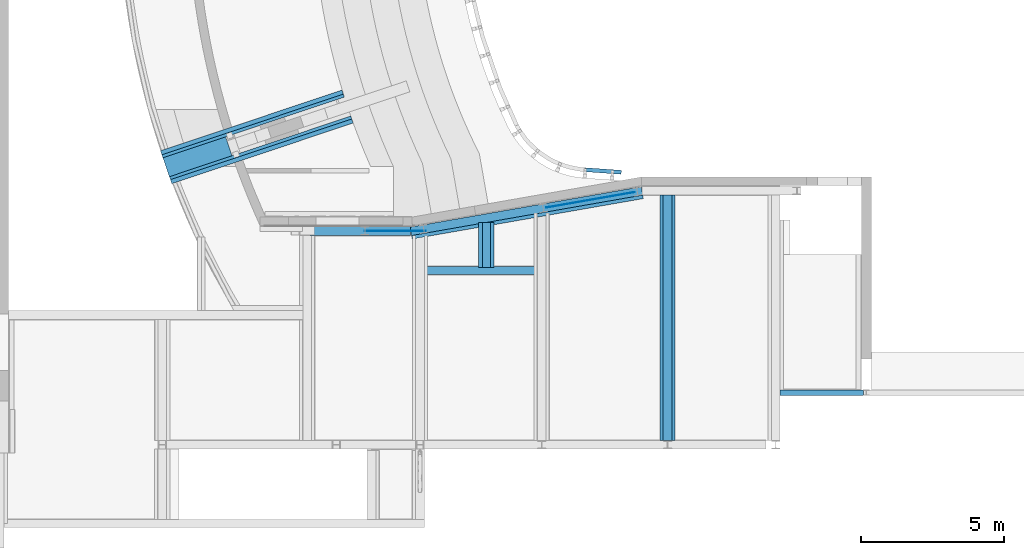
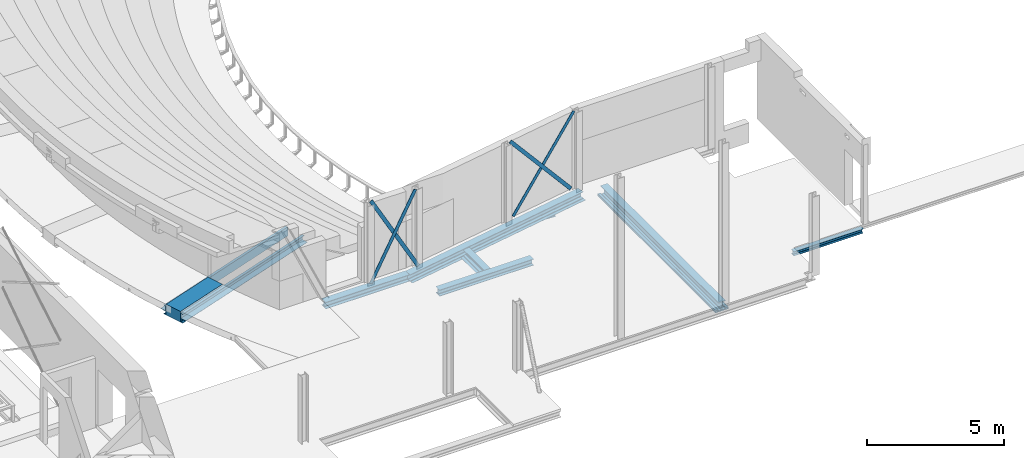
# One storey, part 24 of 68: 16 beams.
"""IFC2X3 building model written with IfcOpenShell, lengths in millimetres."""

from ifc_helpers import new_model, entity, si_unit, converted_unit, derived_unit, direction, frame, frame_2d, origin, origin_2d_with_axis, place, context, subcontext, project, spatial, polyline, circle_curve, parameter, trimmed, segment, composite_curve, rectangle, i_section, outline, extrude, source, transform, mapped, material, material_list, type_object, type_shapes, element, save


model = new_model("IFC2X3")

# Units and contexts
model_context = context("Model", 3, precision=0.01, world=origin(), true_north=direction((6.12303176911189e-17, 1.0)))
body_context = subcontext(model_context, "Body", "Model", "MODEL_VIEW")
ifc_project = project(units=[si_unit("LENGTHUNIT", "METRE", prefix="MILLI"), si_unit("AREAUNIT", "SQUARE_METRE", prefix="MILLI"), si_unit("VOLUMEUNIT", "CUBIC_METRE"), converted_unit("PLANEANGLEUNIT", "DEGREE", entity("IfcRatioMeasure", 0.0174532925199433), si_unit("PLANEANGLEUNIT", "RADIAN"), dimensions=[0, 0, 0, 0, 0, 0, 0]), si_unit("MASSUNIT", "GRAM", prefix="KILO"), derived_unit("MASSDENSITYUNIT", [(si_unit("MASSUNIT", "GRAM", prefix="KILO"), 1), (si_unit("LENGTHUNIT", "METRE"), -3)]), derived_unit("MOMENTOFINERTIAUNIT", [(si_unit("LENGTHUNIT", "METRE"), 4)]), si_unit("TIMEUNIT", "SECOND"), si_unit("FREQUENCYUNIT", "HERTZ"), si_unit("THERMODYNAMICTEMPERATUREUNIT", "DEGREE_CELSIUS"), derived_unit("THERMALTRANSMITTANCEUNIT", [(si_unit("MASSUNIT", "GRAM", prefix="KILO"), 1), (si_unit("THERMODYNAMICTEMPERATUREUNIT", "KELVIN"), -1), (si_unit("TIMEUNIT", "SECOND"), -3)]), derived_unit("VOLUMETRICFLOWRATEUNIT", [(si_unit("LENGTHUNIT", "METRE"), 3), (si_unit("TIMEUNIT", "SECOND"), -1)]), si_unit("ELECTRICCURRENTUNIT", "AMPERE"), si_unit("ELECTRICVOLTAGEUNIT", "VOLT"), si_unit("POWERUNIT", "WATT"), si_unit("FORCEUNIT", "NEWTON", prefix="KILO"), si_unit("ILLUMINANCEUNIT", "LUX"), si_unit("LUMINOUSFLUXUNIT", "LUMEN"), si_unit("LUMINOUSINTENSITYUNIT", "CANDELA"), derived_unit("USERDEFINED", [(si_unit("MASSUNIT", "GRAM", prefix="KILO"), -1), (si_unit("LENGTHUNIT", "METRE"), -2), (si_unit("TIMEUNIT", "SECOND"), 3), (si_unit("LUMINOUSFLUXUNIT", "LUMEN"), 1)]), derived_unit("LINEARVELOCITYUNIT", [(si_unit("LENGTHUNIT", "METRE"), 1), (si_unit("TIMEUNIT", "SECOND"), -1)]), si_unit("PRESSUREUNIT", "PASCAL"), derived_unit("USERDEFINED", [(si_unit("LENGTHUNIT", "METRE"), -2), (si_unit("MASSUNIT", "GRAM", prefix="KILO"), 1), (si_unit("TIMEUNIT", "SECOND"), -2)]), derived_unit("LINEARFORCEUNIT", [(si_unit("MASSUNIT", "GRAM", prefix="KILO"), 1), (si_unit("LENGTHUNIT", "METRE"), 1), (si_unit("TIMEUNIT", "SECOND"), -2), (si_unit("LENGTHUNIT", "METRE"), -1)]), derived_unit("PLANARFORCEUNIT", [(si_unit("MASSUNIT", "GRAM", prefix="KILO"), 1), (si_unit("LENGTHUNIT", "METRE"), 1), (si_unit("TIMEUNIT", "SECOND"), -2), (si_unit("LENGTHUNIT", "METRE"), -2)])], contexts=[model_context])

# Site, building, storey
site_placement = place(None, origin())
site = spatial("IfcSite", under=ifc_project, at=site_placement, Name="Theater aan de Parade", CompositionType="ELEMENT")
building_placement = place(site_placement, origin())
building = spatial("IfcBuilding", under=site, at=building_placement, Name="Theater aan de Parade", CompositionType="ELEMENT")
storey_placement = place(building_placement, frame((0.0, 0.0, 8750.0)))
storey = spatial("IfcBuildingStorey", under=building, at=storey_placement, Name="02 tweede verdieping", CompositionType="ELEMENT", Elevation=8750.0)

# Beams
ifc_material_1 = material(Name="00_PBT_MAT_staal_S355")
beam_type_1 = type_object("IfcBeamType", Name="28_PBT_SF_staal_H-profiel (void):S355_HE300B", PredefinedType="NOTDEFINED")
beam_1_placement = place(storey_placement, frame((48015.9457262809, 20445.0, 0.0)))
element("IfcBeam", 1, at=beam_1_placement, inside=storey, type_object=beam_type_1, material=ifc_material_1, Name="28_PBT_SF_staal_H-profiel (void):S355_HE300B", ObjectType="28_PBT_SF_staal_H-profiel (void):S355_HE300B", context=body_context, shape_type="SweptSolid", body=[
    extrude(outline(composite_curve([segment(polyline([(131.0, -150.0), (150.0, -150.0)]), True, "CONTINUOUS"), segment(polyline([(150.0, -150.0), (150.0, 150.0)]), True, "CONTINUOUS"), segment(polyline([(150.0, 150.0), (131.0, 150.0)]), True, "CONTINUOUS"), segment(polyline([(131.0, 150.0), (131.0, 32.5000000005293)]), True, "CONTINUOUS"), segment(trimmed(circle_curve(frame_2d((104.0, 32.5000000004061), x_axis=(1.0, 0.0)), 26.9999999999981), [parameter(269.999999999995)], [parameter(0.0)], True, "PARAMETER"), False, "CONTINUOUS"), segment(polyline([(104.0, 5.50000000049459), (-104.0, 5.4999999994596)]), True, "CONTINUOUS"), segment(trimmed(circle_curve(frame_2d((-104.0, 32.4999999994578), x_axis=(0.0, -1.0)), 26.9999999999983), [parameter(269.999999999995)], [parameter(0.0)], True, "PARAMETER"), False, "CONTINUOUS"), segment(polyline([(-131.0, 32.4999999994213), (-131.0, 150.0)]), True, "CONTINUOUS"), segment(polyline([(-131.0, 150.0), (-150.0, 150.0)]), True, "CONTINUOUS"), segment(polyline([(-150.0, 150.0), (-150.0, -150.0)]), True, "CONTINUOUS"), segment(polyline([(-150.0, -150.0), (-131.0, -150.0)]), True, "CONTINUOUS"), segment(polyline([(-131.0, -150.0), (-131.0, -32.5000000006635)]), True, "CONTINUOUS"), segment(trimmed(circle_curve(frame_2d((-104.0, -32.5000000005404), x_axis=(-1.0, 0.0)), 26.9999999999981), [parameter(269.999999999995)], [parameter(0.0)], True, "PARAMETER"), False, "CONTINUOUS"), segment(polyline([(-104.0, -5.50000000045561), (104.0, -5.49999999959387)]), True, "CONTINUOUS"), segment(trimmed(circle_curve(frame_2d((104.0, -32.4999999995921), x_axis=(0.0, 1.0)), 26.9999999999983), [parameter(269.999999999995)], [parameter(0.0)], True, "PARAMETER"), False, "CONTINUOUS"), segment(polyline([(131.0, -32.4999999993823), (131.0, -150.0)]), True, "CONTINUOUS")], self_intersect=False)), frame((12.7000006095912, 0.0, -310.0), z_axis=(1.0, 0.0, 0.0), x_axis=(0.0, 0.0, -1.0)), (0.0, 0.0, 1.0), 3515.82327780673),
])
ifc_material_2 = material(Name="00_PBT_MAT_Lucht")
ifc_material_list_1 = material_list([ifc_material_1, ifc_material_2])
beam_type_2 = type_object("IfcBeamType", Name="28_PBT_SF_staal_H-profiel_met_ondergelaste_strip (void):S355_HE300B + ondergelaste strip d=12", PredefinedType="BEAM", material=ifc_material_list_1)
shared_shape_1 = source(origin(), body_context, "Body", "SweptSolid", [
    extrude(rectangle(XDim=12.0, YDim=420.0, at=frame_2d((8.43769498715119e-15, 0.0), x_axis=(1.0, 0.0))), frame((-4112.59046725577, -65.0, -156.0), z_axis=(1.0, 0.0, 0.0), x_axis=(0.0, 0.0, -1.0)), (0.0, 0.0, 1.0), 8225.18093451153),
    extrude(i_section(OverallWidth=300.0, OverallDepth=300.0, WebThickness=11.0, FlangeThickness=18.9999999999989, FilletRadius=27.0, at=frame_2d((-3.97903932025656e-13, -1.4210854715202e-14), x_axis=(0.0, 1.0))), frame((-4113.59046725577, 0.0, 0.0), z_axis=(1.0, 0.0, 0.0), x_axis=(0.0, 0.0, -1.0)), (0.0, 0.0, 1.0), 8227.18093451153),
])
type_shapes(beam_type_2, [shared_shape_1])
beam_2_placement = place(storey_placement, frame((55604.3861490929, 21141.1470188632, -315.0), z_axis=(0.0, 0.0, 1.0), x_axis=(0.985030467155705, 0.172380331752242, 0.0)))
element("IfcBeam", 2, at=beam_2_placement, inside=storey, type_object=beam_type_2, material=ifc_material_1, Name="28_PBT_SF_staal_H-profiel_met_ondergelaste_strip (void):S355_HE300B + ondergelaste strip d=12", ObjectType="28_PBT_SF_staal_H-profiel_met_ondergelaste_strip (void):S355_HE300B + ondergelaste strip d=12", context=body_context, shape_type="MappedRepresentation", body=[
    mapped(shared_shape_1, transform((0.0, 0.0, 0.0), scale=1.0)),
])
beam_type_3 = type_object("IfcBeamType", Name="28_PBT_SF_staal_H-profiel (void):S355_HE280B", PredefinedType="NOTDEFINED")
beam_3_placement = place(storey_placement, frame((52025.3051596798, 19060.0, 0.0)))
element("IfcBeam", 3, at=beam_3_placement, inside=storey, type_object=beam_type_3, material=ifc_material_1, Name="28_PBT_SF_staal_H-profiel (void):S355_HE280B", ObjectType="28_PBT_SF_staal_H-profiel (void):S355_HE280B", context=body_context, shape_type="SweptSolid", body=[
    extrude(i_section(OverallWidth=279.999999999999, OverallDepth=280.0, WebThickness=10.4999999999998, FlangeThickness=17.9999999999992, FilletRadius=24.0000000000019, at=frame_2d((-5.40012479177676e-13, -2.1600499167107e-12), x_axis=(0.0, 1.0))), frame((0.0, 0.0, -320.0), z_axis=(1.0, 0.0, 0.0), x_axis=(0.0, 0.0, -1.0)), (0.0, 0.0, 1.0), 3964.24691582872),
])
beam_type_4 = type_object("IfcBeamType", Name="28_PBT_SF_staal_UNP-profiel_met_ingelaste_strip (void):S355_UNP400 + ingelaste strip_d=15", PredefinedType="BEAM", material=ifc_material_1)
shared_shape_2 = source(origin(), body_context, "Body", "SweptSolid", [
    extrude(rectangle(XDim=15.0, YDim=246.000000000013, at=origin_2d_with_axis()), frame((-3347.81277457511, -110.2, -32.499999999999), z_axis=(1.0, 0.0, 0.0), x_axis=(0.0, 0.0, -1.0)), (0.0, 0.0, 1.0), 6695.62554915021),
    extrude(outline(composite_curve([segment(polyline([(191.0, -48.8333333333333), (200.0, -48.8333333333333)]), True, "CONTINUOUS"), segment(polyline([(200.0, -48.8333333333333), (200.0, 61.1666666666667)]), True, "CONTINUOUS"), segment(polyline([(200.0, 61.1666666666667), (-200.0, 61.1666666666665)]), True, "CONTINUOUS"), segment(polyline([(-200.0, 61.1666666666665), (-200.0, -48.8333333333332)]), True, "CONTINUOUS"), segment(polyline([(-200.0, -48.8333333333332), (-191.0, -48.8333333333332)]), True, "CONTINUOUS"), segment(trimmed(circle_curve(frame_2d((-191.0, -39.8333333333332), x_axis=(0.0, -1.0)), 8.99999999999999), [parameter(0.0)], [parameter(90.0000000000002)], True, "PARAMETER"), True, "CONTINUOUS"), segment(polyline([(-182.0, -39.8333333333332), (-182.0, 29.1666666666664)]), True, "CONTINUOUS"), segment(trimmed(circle_curve(frame_2d((-164.0, 29.1666666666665), x_axis=(-1.0, 0.0)), 18.0), [parameter(270.0)], [parameter(0.0)], True, "PARAMETER"), False, "CONTINUOUS"), segment(polyline([(-164.0, 47.1666666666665), (164.0, 47.1666666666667)]), True, "CONTINUOUS"), segment(trimmed(circle_curve(frame_2d((164.0, 29.1666666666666), x_axis=(0.0, 1.0)), 18.0000000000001), [parameter(270.0)], [parameter(0.0)], True, "PARAMETER"), False, "CONTINUOUS"), segment(polyline([(182.0, 29.1666666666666), (182.0, -39.8333333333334)]), True, "CONTINUOUS"), segment(trimmed(circle_curve(frame_2d((191.0, -39.8333333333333), x_axis=(-1.0, 0.0)), 8.99999999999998), [parameter(0.0)], [parameter(90.0000000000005)], True, "PARAMETER"), True, "CONTINUOUS")], self_intersect=False)), frame((-3347.81277457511, -34.3666666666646, 0.0), z_axis=(1.0, 0.0, 0.0), x_axis=(0.0, 0.0, -1.0)), (0.0, 0.0, 1.0), 6695.62554915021),
])
type_shapes(beam_type_4, [shared_shape_2])
beam_4_placement = place(storey_placement, frame((46280.8476382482, 23385.1136450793, -355.0), z_axis=(0.0, 0.0, 1.0), x_axis=(0.948323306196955, 0.317305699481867, 0.0)))
element("IfcBeam", 4, at=beam_4_placement, inside=storey, type_object=beam_type_4, material=ifc_material_1, Name="28_PBT_SF_staal_UNP-profiel_met_ingelaste_strip (void):S355_UNP400 + ingelaste strip_d=15", ObjectType="28_PBT_SF_staal_UNP-profiel_met_ingelaste_strip (void):S355_UNP400 + ingelaste strip_d=15", context=body_context, shape_type="MappedRepresentation", body=[
    mapped(shared_shape_2, transform((0.0, 0.0, 0.0), scale=1.0)),
])
beam_type_5 = type_object("IfcBeamType", Name="28_PBT_SF_staal_UNP-profiel_met_ingelaste_strip (void):S355_UNP400 + ingelaste strip_d=15", PredefinedType="BEAM", material=ifc_material_1)
shared_shape_3 = source(origin(), body_context, "Body", "SweptSolid", [
    extrude(outline(composite_curve([segment(polyline([(-200.0, -48.833333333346), (-191.0, -48.833333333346)]), True, "CONTINUOUS"), segment(trimmed(circle_curve(frame_2d((-191.0, -39.8333333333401), x_axis=(0.0, -1.0)), 9.00000000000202), [parameter(0.0)], [parameter(89.9999999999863)], True, "PARAMETER"), True, "CONTINUOUS"), segment(polyline([(-182.0, -39.8333333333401), (-182.0, 29.1666666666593)]), True, "CONTINUOUS"), segment(trimmed(circle_curve(frame_2d((-164.0, 29.1666666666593), x_axis=(-1.0, 0.0)), 17.9999999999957), [parameter(269.999999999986)], [parameter(0.0)], True, "PARAMETER"), False, "CONTINUOUS"), segment(polyline([(-164.0, 47.1666666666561), (164.0, 47.1666666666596)]), True, "CONTINUOUS"), segment(trimmed(circle_curve(frame_2d((164.0, 29.1666666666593), x_axis=(0.0, 1.0)), 17.9999999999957), [parameter(269.999999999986)], [parameter(0.0)], True, "PARAMETER"), False, "CONTINUOUS"), segment(polyline([(182.0, 29.1666666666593), (182.0, -39.8333333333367)]), True, "CONTINUOUS"), segment(trimmed(circle_curve(frame_2d((191.0, -39.8333333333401), x_axis=(-1.0, 0.0)), 9.00000000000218), [parameter(0.0)], [parameter(89.9999999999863)], True, "PARAMETER"), True, "CONTINUOUS"), segment(polyline([(191.0, -48.8333333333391), (200.0, -48.8333333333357)]), True, "CONTINUOUS"), segment(polyline([(200.0, -48.8333333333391), (200.0, 61.1666666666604)]), True, "CONTINUOUS"), segment(polyline([(200.0, 61.1666666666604), (-200.0, 61.1666666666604)]), True, "CONTINUOUS"), segment(polyline([(-200.0, 61.1666666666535), (-200.0, -48.8333333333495)]), True, "CONTINUOUS")], self_intersect=False)), frame((42846.8258397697, 23067.0069190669, 8395.0), z_axis=(0.948323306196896, 0.317305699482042, 0.0), x_axis=(0.0, 0.0, 1.0)), (0.0, 0.0, 1.0), 6705.31275726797),
    extrude(rectangle(XDim=14.9999999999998, YDim=246.000000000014, at=frame_2d((0.0, 2.06057393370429e-12), x_axis=(1.0, 0.0))), frame((42822.7634908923, 23138.9214364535, 8362.5), z_axis=(0.948323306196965, 0.317305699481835, 0.0), x_axis=(0.0, 0.0, 1.0)), (0.0, 0.0, 1.0), 6705.31275726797),
])
type_shapes(beam_type_5, [shared_shape_3])
beam_5_placement = place(storey_placement, frame((0.0, 0.0, -8750.0)))
element("IfcBeam", 5, at=beam_5_placement, inside=storey, type_object=beam_type_5, material=ifc_material_1, Name="28_PBT_SF_staal_UNP-profiel_met_ingelaste_strip (void):S355_UNP400 + ingelaste strip_d=15", ObjectType="28_PBT_SF_staal_UNP-profiel_met_ingelaste_strip (void):S355_UNP400 + ingelaste strip_d=15", context=body_context, shape_type="MappedRepresentation", body=[
    mapped(shared_shape_3, transform((0.0, 0.0, 0.0), scale=1.0)),
])
beam_type_6 = type_object("IfcBeamType", Name="28_PBT_SF_staal_UNP-profiel:S355_UNP140", PredefinedType="NOTDEFINED")
beam_6_placement = place(storey_placement, frame((58929.5914803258, 22501.1086016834, 0.0), z_axis=(0.0, 0.0, 1.0), x_axis=(-0.997491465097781, 0.0707868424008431, 0.0)))
element("IfcBeam", 6, at=beam_6_placement, inside=storey, type_object=beam_type_6, material=ifc_material_1, Name="28_PBT_SF_staal_UNP-profiel:S355_UNP140", ObjectType="28_PBT_SF_staal_UNP-profiel:S355_UNP140", context=body_context, shape_type="SweptSolid", body=[
    extrude(outline(composite_curve([segment(polyline([(-33.1002123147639, -70.0), (26.8997876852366, -70.0)]), True, "CONTINUOUS"), segment(polyline([(26.8997876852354, -70.0), (26.8997876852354, -67.0159744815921)]), True, "CONTINUOUS"), segment(trimmed(circle_curve(frame_2d((21.8997876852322, -67.0159744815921), x_axis=(1.0, 0.0)), 5.00000000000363), [parameter(0.0)], [parameter(85.4260787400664)], True, "PARAMETER"), True, "CONTINUOUS"), segment(polyline([(22.2985137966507, -62.0318980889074), (-16.8976645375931, -58.8962038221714)]), True, "CONTINUOUS"), segment(trimmed(circle_curve(frame_2d((-16.1002123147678, -48.9280510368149), x_axis=(-0.0797452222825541, -0.996815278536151)), 9.99999999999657), [parameter(274.573921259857)], [parameter(0.0)], True, "PARAMETER"), False, "CONTINUOUS"), segment(polyline([(-26.1002123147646, -48.9280510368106), (-26.1002123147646, 48.9280510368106)]), True, "CONTINUOUS"), segment(trimmed(circle_curve(frame_2d((-16.1002123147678, 48.9280510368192), x_axis=(-1.0, 0.0)), 9.99999999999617), [parameter(274.573921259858)], [parameter(0.0)], True, "PARAMETER"), False, "CONTINUOUS"), segment(polyline([(-16.8976645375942, 58.8962038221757), (22.2985137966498, 62.0318980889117)]), True, "CONTINUOUS"), segment(trimmed(circle_curve(frame_2d((21.8997876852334, 67.0159744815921), x_axis=(0.0797452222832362, -0.996815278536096)), 5.00000000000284), [parameter(0.0)], [parameter(85.4260787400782)], True, "PARAMETER"), True, "CONTINUOUS"), segment(polyline([(26.8997876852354, 67.0159744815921), (26.8997876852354, 70.0)]), True, "CONTINUOUS"), segment(polyline([(26.8997876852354, 70.0), (-33.100212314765, 70.0)]), True, "CONTINUOUS"), segment(polyline([(-33.100212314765, 70.0), (-33.1002123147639, -70.0)]), True, "CONTINUOUS")], self_intersect=False)), frame((0.0, 0.0, -1431.10021231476), z_axis=(1.0, 0.0, 0.0), x_axis=(0.0, 0.0, -1.0)), (0.0, 0.0, 1.0), 1278.97616035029),
])
beam_type_7 = type_object("IfcBeamType", Name="28_PBT_SF_staal_H-profiel (void):S355_HE200A", PredefinedType="NOTDEFINED")
beam_7_placement = place(storey_placement, frame((67416.0563479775, 14780.0, 0.0), z_axis=(0.0, 0.0, 1.0), x_axis=(-1.0, 0.0, 0.0)))
element("IfcBeam", 7, at=beam_7_placement, inside=storey, type_object=beam_type_7, material=ifc_material_1, Name="28_PBT_SF_staal_H-profiel (void):S355_HE200A", ObjectType="28_PBT_SF_staal_H-profiel (void):S355_HE200A", context=body_context, shape_type="SweptSolid", body=[
    extrude(outline(composite_curve([segment(polyline([(85.0, -100.0), (95.0, -100.0)]), True, "CONTINUOUS"), segment(polyline([(95.0, -100.0), (95.0, 100.0)]), True, "CONTINUOUS"), segment(polyline([(95.0, 100.0), (85.0, 100.0)]), True, "CONTINUOUS"), segment(polyline([(85.0, 100.0), (85.0, 21.2500000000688)]), True, "CONTINUOUS"), segment(trimmed(circle_curve(frame_2d((67.0, 21.2500000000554), x_axis=(1.0, 0.0)), 18.0000000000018), [parameter(270.00000000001)], [parameter(0.0)], True, "PARAMETER"), False, "CONTINUOUS"), segment(polyline([(67.0, 3.25000000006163), (-67.0, 3.24999999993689)]), True, "CONTINUOUS"), segment(trimmed(circle_curve(frame_2d((-67.0, 21.2499999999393), x_axis=(0.0, -1.0)), 18.0000000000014), [parameter(270.00000000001)], [parameter(0.0)], True, "PARAMETER"), False, "CONTINUOUS"), segment(polyline([(-85.0, 21.2499999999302), (-85.0, 100.0)]), True, "CONTINUOUS"), segment(polyline([(-85.0, 100.0), (-95.0, 100.0)]), True, "CONTINUOUS"), segment(polyline([(-95.0, 100.0), (-95.0, -100.0)]), True, "CONTINUOUS"), segment(polyline([(-95.0, -100.0), (-85.0, -100.0)]), True, "CONTINUOUS"), segment(polyline([(-85.0, -100.0), (-85.0, -21.2500000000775)]), True, "CONTINUOUS"), segment(trimmed(circle_curve(frame_2d((-67.0, -21.250000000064), x_axis=(-1.0, 0.0)), 18.0000000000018), [parameter(270.00000000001)], [parameter(0.0)], True, "PARAMETER"), False, "CONTINUOUS"), segment(polyline([(-67.0, -3.25000000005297), (67.0, -3.24999999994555)]), True, "CONTINUOUS"), segment(trimmed(circle_curve(frame_2d((67.0, -21.249999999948), x_axis=(0.0, 1.0)), 18.0000000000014), [parameter(270.00000000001)], [parameter(0.0)], True, "PARAMETER"), False, "CONTINUOUS"), segment(polyline([(85.0, -21.2499999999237), (85.0, -100.0)]), True, "CONTINUOUS")], self_intersect=False)), frame((0.0, 0.0, -365.0), z_axis=(1.0, 0.0, 0.0), x_axis=(0.0, 0.0, -1.0)), (0.0, 0.0, 1.0), 2921.50427246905),
])
ifc_material_3 = material(Name="00_PBT_MAT_staal_S235")
beam_type_8 = type_object("IfcBeamType", Name="28_PBT_SF_staal_koker:S235_K80x120x6.3", PredefinedType="NOTDEFINED")
beam_8_placement = place(storey_placement, frame((60280.5520755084, 21705.0, 0.0), z_axis=(0.0, 0.0, 1.0), x_axis=(0.0, -1.0, 0.0)))
element("IfcBeam", 8, at=beam_8_placement, inside=storey, type_object=beam_type_8, material=ifc_material_3, Name="28_PBT_SF_staal_koker:S235_K80x120x6.3", ObjectType="28_PBT_SF_staal_koker:S235_K80x120x6.3", context=body_context, shape_type="SweptSolid", body=[
    extrude(outline(composite_curve([segment(polyline([(-30.5499999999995, -60.0), (30.5500000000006, -60.0)]), True, "CONTINUOUS"), segment(trimmed(circle_curve(frame_2d((30.5500000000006, -50.5500000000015), x_axis=(0.0, 1.0)), 9.45), [parameter(180.0)], [parameter(270.0)], True, "PARAMETER"), True, "CONTINUOUS"), segment(polyline([(40.0, -50.5500000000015), (40.0, 50.5500000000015)]), True, "CONTINUOUS"), segment(trimmed(circle_curve(frame_2d((30.5500000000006, 50.5500000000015), x_axis=(0.0, 1.0)), 9.45), [parameter(270.0)], [parameter(360.0)], True, "PARAMETER"), True, "CONTINUOUS"), segment(polyline([(30.5500000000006, 60.0), (-30.5499999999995, 60.0)]), True, "CONTINUOUS"), segment(trimmed(circle_curve(frame_2d((-30.5499999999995, 50.5500000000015), x_axis=(0.0, 1.0)), 9.45), [parameter(0.0)], [parameter(90.0000000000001)], True, "PARAMETER"), True, "CONTINUOUS"), segment(polyline([(-40.0, 50.5500000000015), (-40.0, -50.5500000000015)]), True, "CONTINUOUS"), segment(trimmed(circle_curve(frame_2d((-30.5499999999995, -50.5500000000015), x_axis=(0.0, 1.0)), 9.45), [parameter(90.0)], [parameter(180.0)], True, "PARAMETER"), True, "CONTINUOUS")], self_intersect=False), holes=[composite_curve([segment(polyline([(33.700000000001, 47.3999999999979), (33.700000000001, -47.3999999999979)]), True, "CONTINUOUS"), segment(trimmed(circle_curve(frame_2d((27.4000000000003, -47.3999999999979), x_axis=(0.0, 1.0)), 6.3), [parameter(180.0)], [parameter(270.0)], True, "PARAMETER"), False, "CONTINUOUS"), segment(polyline([(27.4000000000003, -53.6999999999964), (-27.3999999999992, -53.6999999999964)]), True, "CONTINUOUS"), segment(trimmed(circle_curve(frame_2d((-27.3999999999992, -47.3999999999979), x_axis=(0.0, 1.0)), 6.3), [parameter(90.0)], [parameter(180.0)], True, "PARAMETER"), False, "CONTINUOUS"), segment(polyline([(-33.6999999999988, -47.3999999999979), (-33.6999999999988, 47.3999999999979)]), True, "CONTINUOUS"), segment(trimmed(circle_curve(frame_2d((-27.3999999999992, 47.3999999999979), x_axis=(0.0, 1.0)), 6.3), [parameter(4.07110999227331e-13)], [parameter(90.0000000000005)], True, "PARAMETER"), False, "CONTINUOUS"), segment(polyline([(-27.3999999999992, 53.6999999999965), (27.4000000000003, 53.6999999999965)]), True, "CONTINUOUS"), segment(trimmed(circle_curve(frame_2d((27.4000000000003, 47.3999999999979), x_axis=(0.0, 1.0)), 6.3), [parameter(270.0)], [parameter(360.0)], True, "PARAMETER"), False, "CONTINUOUS")], self_intersect=False)]), frame((0.0, 60.0, -505.0), z_axis=(1.0, 0.0, 0.0), x_axis=(0.0, 0.0, 1.0)), (0.0, 0.0, 1.0), 8600.00000000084),
])
beam_9_placement = place(storey_placement, frame((60820.5520755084, 21705.0, 0.0), z_axis=(0.0, 0.0, 1.0), x_axis=(0.0, -1.0, 0.0)))
element("IfcBeam", 9, at=beam_9_placement, inside=storey, type_object=beam_type_8, material=ifc_material_3, Name="28_PBT_SF_staal_koker:S235_K80x120x6.3", ObjectType="28_PBT_SF_staal_koker:S235_K80x120x6.3", context=body_context, shape_type="SweptSolid", body=[
    extrude(outline(composite_curve([segment(trimmed(circle_curve(frame_2d((-50.5500000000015, -30.5499999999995), x_axis=(1.0, 0.0)), 9.45), [parameter(180.0)], [parameter(270.0)], True, "PARAMETER"), True, "CONTINUOUS"), segment(polyline([(-50.5500000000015, -40.0), (50.5500000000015, -40.0)]), True, "CONTINUOUS"), segment(trimmed(circle_curve(frame_2d((50.5500000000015, -30.5499999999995), x_axis=(1.0, 0.0)), 9.45), [parameter(270.0)], [parameter(0.0)], True, "PARAMETER"), True, "CONTINUOUS"), segment(polyline([(60.0, -30.5499999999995), (60.0, 30.5500000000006)]), True, "CONTINUOUS"), segment(trimmed(circle_curve(frame_2d((50.5500000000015, 30.5500000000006), x_axis=(1.0, 0.0)), 9.45), [parameter(3.56222124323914e-13)], [parameter(90.0000000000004)], True, "PARAMETER"), True, "CONTINUOUS"), segment(polyline([(50.5500000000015, 40.0), (-50.5500000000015, 40.0)]), True, "CONTINUOUS"), segment(trimmed(circle_curve(frame_2d((-50.5500000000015, 30.5500000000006), x_axis=(1.0, 0.0)), 9.45), [parameter(90.0000000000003)], [parameter(180.0)], True, "PARAMETER"), True, "CONTINUOUS"), segment(polyline([(-60.0, 30.5500000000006), (-60.0, -30.5499999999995)]), True, "CONTINUOUS")], self_intersect=False), holes=[composite_curve([segment(trimmed(circle_curve(frame_2d((47.3999999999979, 27.4000000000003), x_axis=(1.0, 0.0)), 6.3), [parameter(5.08888749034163e-14)], [parameter(90.0000000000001)], True, "PARAMETER"), False, "CONTINUOUS"), segment(polyline([(53.6999999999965, 27.4000000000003), (53.6999999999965, -27.3999999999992)]), True, "CONTINUOUS"), segment(trimmed(circle_curve(frame_2d((47.3999999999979, -27.3999999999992), x_axis=(1.0, 0.0)), 6.3), [parameter(269.999999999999)], [parameter(360.0)], True, "PARAMETER"), False, "CONTINUOUS"), segment(polyline([(47.3999999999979, -33.6999999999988), (-47.3999999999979, -33.6999999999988)]), True, "CONTINUOUS"), segment(trimmed(circle_curve(frame_2d((-47.3999999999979, -27.3999999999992), x_axis=(1.0, 0.0)), 6.3), [parameter(180.0)], [parameter(270.0)], True, "PARAMETER"), False, "CONTINUOUS"), segment(polyline([(-53.6999999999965, -27.3999999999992), (-53.6999999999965, 27.4000000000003)]), True, "CONTINUOUS"), segment(trimmed(circle_curve(frame_2d((-47.3999999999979, 27.4000000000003), x_axis=(1.0, 0.0)), 6.3), [parameter(89.9999999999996)], [parameter(180.0)], True, "PARAMETER"), False, "CONTINUOUS"), segment(polyline([(-47.3999999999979, 33.700000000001), (47.3999999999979, 33.700000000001)]), True, "CONTINUOUS")], self_intersect=False)]), frame((0.0, -60.0, -505.0), z_axis=(1.0, 0.0, 0.0), x_axis=(0.0, 1.0, 0.0)), (0.0, 0.0, 1.0), 8600.00000000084),
])
ifc_material_4 = material(Name="00_PBT_MAT_staal")
beam_type_9 = type_object("IfcBeamType", Name="28_PBT_SF_staal_strip:strip 10x150", PredefinedType="NOTDEFINED")
beam_10_placement = place(storey_placement, frame((56198.1080317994, 21245.0483483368, -244.205498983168), z_axis=(0.769380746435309, -0.0928140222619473, -0.632011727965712), x_axis=(0.638790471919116, 0.111788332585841, 0.761216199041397)))
element("IfcBeam", 10, at=beam_10_placement, inside=storey, type_object=beam_type_9, material=ifc_material_4, Name="28_PBT_SF_staal_strip:strip 10x150", ObjectType="28_PBT_SF_staal_strip:strip 10x150", context=body_context, shape_type="SweptSolid", body=[
    extrude(rectangle(XDim=150.000000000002, YDim=10.0000000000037, at=frame_2d((-2.13384865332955e-12, 6.3948846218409e-13), x_axis=(0.0, 1.0))), frame((457.426293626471, 0.0, 0.0), z_axis=(1.0, 0.0, 0.0), x_axis=(0.0, -0.97457747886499, -0.224050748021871)), (0.0, 0.0, 1.0), 4455.14426171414),
])
beam_11_placement = place(storey_placement, frame((59491.1870358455, 21821.3371740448, -250.0), z_axis=(0.77016102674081, -0.0924470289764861, 0.631114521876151), x_axis=(-0.637849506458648, -0.111623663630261, 0.762028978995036)))
element("IfcBeam", 11, at=beam_11_placement, inside=storey, type_object=beam_type_9, material=ifc_material_4, Name="28_PBT_SF_staal_strip:strip 10x150", ObjectType="28_PBT_SF_staal_strip:strip 10x150", context=body_context, shape_type="SweptSolid", body=[
    extrude(rectangle(XDim=149.999999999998, YDim=10.0000000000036, at=frame_2d((6.3948846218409e-13, 2.13296047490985e-12), x_axis=(1.0, 0.0))), frame((465.580940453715, 0.0, 0.0), z_axis=(1.0, 0.0, 0.0), x_axis=(0.0, -0.223823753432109, 0.974629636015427)), (0.0, 0.0, 1.0), 4446.9855539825),
])
beam_12_placement = place(storey_placement, frame((49940.2685639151, 20445.0, -236.716158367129), z_axis=(0.8837857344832, 0.0, -0.467891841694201), x_axis=(0.467891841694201, 0.0, 0.8837857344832)))
element("IfcBeam", 12, at=beam_12_placement, inside=storey, type_object=beam_type_9, material=ifc_material_4, Name="28_PBT_SF_staal_strip:strip 10x150", ObjectType="28_PBT_SF_staal_strip:strip 10x150", context=body_context, shape_type="SweptSolid", body=[
    extrude(rectangle(XDim=150.000000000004, YDim=10.0000000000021, at=frame_2d((0.0, 2.16582307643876e-12), x_axis=(1.0, 0.0))), frame((147.581027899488, 0.0, 0.0), z_axis=(1.0, 0.0, 0.0), x_axis=(0.0, 0.0, -1.0)), (0.0, 0.0, 1.0), 4002.19871328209),
])
beam_13_placement = place(storey_placement, frame((49942.8275781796, 20445.0, 3701.65781878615), z_axis=(0.87404997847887, 0.0, 0.48583601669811), x_axis=(0.48583601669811, 0.0, -0.87404997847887)))
element("IfcBeam", 13, at=beam_13_placement, inside=storey, type_object=beam_type_9, material=ifc_material_4, Name="28_PBT_SF_staal_strip:strip 10x150", ObjectType="28_PBT_SF_staal_strip:strip 10x150", context=body_context, shape_type="SweptSolid", body=[
    extrude(rectangle(XDim=149.999999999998, YDim=10.0000000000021, at=frame_2d((0.0, -2.16582307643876e-12), x_axis=(1.0, 0.0))), frame((147.581027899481, 0.0, 0.0), z_axis=(1.0, 0.0, 0.0), x_axis=(0.0, 0.0, -1.0)), (0.0, 0.0, 1.0), 4102.19871328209),
])
ifc_material_list_2 = material_list([ifc_material_1, ifc_material_2])
beam_type_10 = type_object("IfcBeamType", Name="28_PBT_SF_staal_H-profiel_met_onderplaat (void):S355_HE400B + onderplaat d=15", PredefinedType="BEAM", material=ifc_material_list_2)
shared_shape_4 = source(origin(), body_context, "Body", "SweptSolid", [
    extrude(i_section(OverallWidth=300.000000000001, OverallDepth=400.0, WebThickness=13.4999999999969, FlangeThickness=23.9999999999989, FilletRadius=27.0000000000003, at=frame_2d((8.65441052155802e-12, 0.0), x_axis=(1.0, 0.0))), frame((60550.5520755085, 21705.0, 8405.0), z_axis=(0.0, -1.0, 0.0), x_axis=(-1.0, 0.0, 0.0)), (0.0, 0.0, 1.0), 8600.00000000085),
    extrude(rectangle(XDim=14.9999999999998, YDim=539.999999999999, at=frame_2d((8.66862137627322e-12, -5.41344746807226e-13), x_axis=(0.0, 1.0))), frame((60550.5520755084, 21705.0, 8197.5), z_axis=(0.0, -1.0, 0.0), x_axis=(-1.0, 0.0, 0.0)), (0.0, 0.0, 1.0), 8600.00000000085),
])
type_shapes(beam_type_10, [shared_shape_4])
beam_14_placement = place(storey_placement, frame((0.0, 0.0, -8750.0)))
element("IfcBeam", 14, at=beam_14_placement, inside=storey, type_object=beam_type_10, material=ifc_material_1, Name="28_PBT_SF_staal_H-profiel_met_onderplaat (void):S355_HE400B + onderplaat d=15", ObjectType="28_PBT_SF_staal_H-profiel_met_onderplaat (void):S355_HE400B + onderplaat d=15", context=body_context, shape_type="MappedRepresentation", body=[
    mapped(shared_shape_4, transform((0.0, 0.0, 0.0), scale=1.0)),
])
ifc_material_5 = material(Name="00_PBT_MAT_beton t.p.g._C30/37")
beam_type_11 = type_object("IfcBeamType", Name="28_PBT_SF_betonbalk:C30/37_700x475", PredefinedType="NOTDEFINED")
beam_15_placement = place(storey_placement, frame((42981.0549842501, 22678.347279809, 0.0), z_axis=(0.0, 0.0, 1.0), x_axis=(0.948323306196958, 0.317305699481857, 0.0)))
element("IfcBeam", 15, at=beam_15_placement, inside=storey, type_object=beam_type_11, material=ifc_material_5, Name="28_PBT_SF_betonbalk:C30/37_700x475", ObjectType="28_PBT_SF_betonbalk:C30/37_700x475", context=body_context, shape_type="SweptSolid", body=[
    extrude(rectangle(XDim=475.0, YDim=700.000000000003, at=frame_2d((0.0, 2.07478478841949e-12), x_axis=(1.0, 0.0))), frame((0.0, 0.0, -317.500000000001), z_axis=(1.0, 0.0, 0.0), x_axis=(0.0, 0.0, -1.0)), (0.0, 0.0, 1.0), 2316.51686951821),
])
ifc_material_list_3 = material_list([ifc_material_1, ifc_material_2])
beam_type_12 = type_object("IfcBeamType", Name="28_PBT_SF_staal_H-profiel_met_onderplaat (void):S355_HE280B + onderplaat d=12", PredefinedType="BEAM", material=ifc_material_list_3)
shared_shape_5 = source(origin(), body_context, "Body", "SweptSolid", [
    extrude(i_section(OverallWidth=279.999999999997, OverallDepth=280.0, WebThickness=10.4999999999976, FlangeThickness=17.9999999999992, FilletRadius=24.00000000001, at=frame_2d((4.32009983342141e-12, -2.70006239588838e-12), x_axis=(1.0, 0.0))), frame((54199.1165439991, 20742.9452841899, 8425.0), z_axis=(0.0, -1.0, 0.0), x_axis=(-1.0, 0.0, 0.0)), (0.0, 0.0, 1.0), 1582.94528419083),
    extrude(rectangle(XDim=12.0000000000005, YDim=530.000000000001, at=frame_2d((0.0, -5.41788836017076e-13), x_axis=(0.0, 1.0))), frame((54199.1165439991, 20742.9452841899, 8279.0), z_axis=(0.0, -1.0, 0.0), x_axis=(-1.0, 0.0, 0.0)), (0.0, 0.0, 1.0), 1582.94528419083),
])
type_shapes(beam_type_12, [shared_shape_5])
beam_16_placement = place(storey_placement, frame((0.0, 0.0, -8750.0)))
element("IfcBeam", 16, at=beam_16_placement, inside=storey, type_object=beam_type_12, material=ifc_material_1, Name="28_PBT_SF_staal_H-profiel_met_onderplaat (void):S355_HE280B + onderplaat d=12", ObjectType="28_PBT_SF_staal_H-profiel_met_onderplaat (void):S355_HE280B + onderplaat d=12", context=body_context, shape_type="MappedRepresentation", body=[
    mapped(shared_shape_5, transform((0.0, 0.0, 0.0), scale=1.0)),
])

save(model, "model.ifc")
